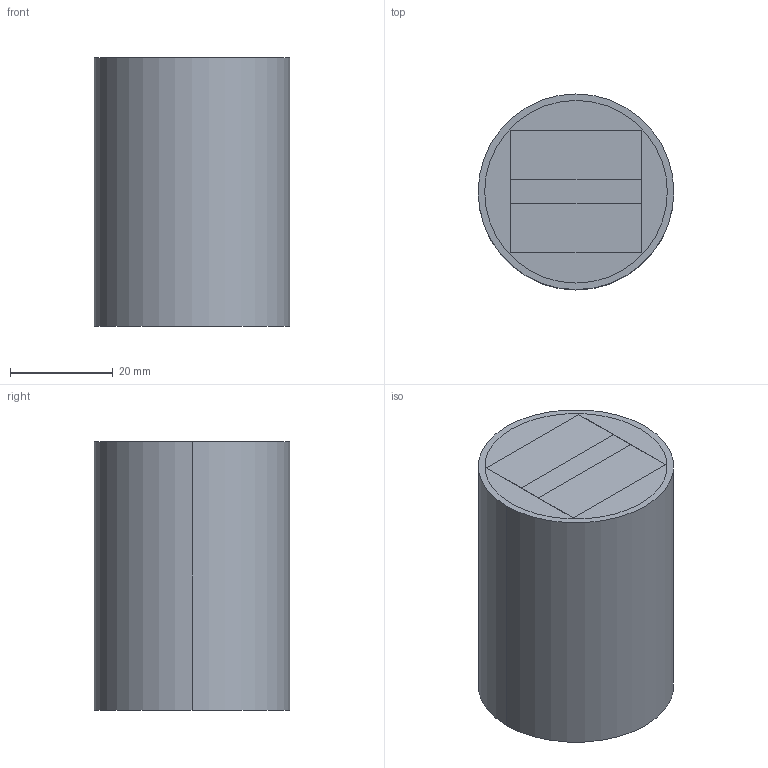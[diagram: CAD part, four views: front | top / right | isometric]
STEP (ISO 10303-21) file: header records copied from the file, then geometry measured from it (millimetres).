
FILE_DESCRIPTION (( 'STEP AP203' ), '1' );
FILE_NAME ('NT1500.STEP', '2018-07-09T14:36:47', ( '' ), ( '' ), 'SwSTEP 2.0', 'SolidWorks 2015', '' );
FILE_SCHEMA (( 'CONFIG_CONTROL_DESIGN' ));
Length unit declared in the file: inch
Products named in the file (1): NT1500
Bounding box: 38.1 x 38.1 x 52.32 mm (x, y, z)
Volume: 58414.7 mm3; surface area: 32620.8 mm2
Topology: 5 solids, 5 shells, 35 faces, 72 edges, 48 vertices
Faces by surface type: plane 27, cylinder 8
Entity records: 1001 total; most frequent: DIRECTION 160, CARTESIAN_POINT 156, ORIENTED_EDGE 144, EDGE_CURVE 72, VECTOR 56, LINE 56, AXIS2_PLACEMENT_3D 52, VERTEX_POINT 48
